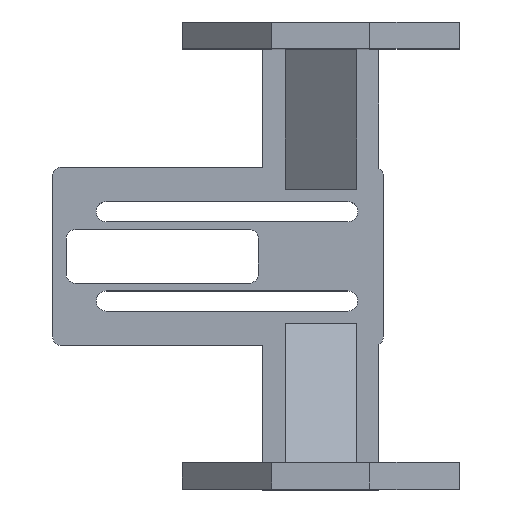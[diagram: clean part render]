
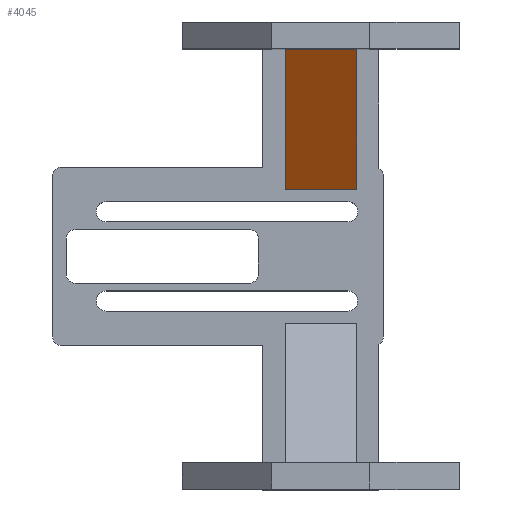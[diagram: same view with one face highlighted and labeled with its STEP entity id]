
A CAD part, top view. The second image highlights one B-rep face of the part: STEP entity #4045.
In plain terms, the highlighted planar face has unit normal (0, -0.543, 0.84).
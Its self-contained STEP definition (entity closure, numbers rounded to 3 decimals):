
#44 = PLANE('',#45);
#45 = AXIS2_PLACEMENT_3D('',#46,#47,#48);
#46 = CARTESIAN_POINT('',(-15.,-20.,6.));
#47 = DIRECTION('',(0.,0.,1.));
#48 = DIRECTION('',(1.,0.,0.));
#671 = PLANE('',#672);
#672 = AXIS2_PLACEMENT_3D('',#673,#674,#675);
#673 = CARTESIAN_POINT('',(45.,46.3,52.815));
#674 = DIRECTION('',(-0.,-1.,-0.));
#675 = DIRECTION('',(0.,0.,-1.));
#683 = VERTEX_POINT('',#684);
#684 = CARTESIAN_POINT('',(53.,15.,6.));
#698 = PLANE('',#699);
#699 = AXIS2_PLACEMENT_3D('',#700,#701,#702);
#700 = CARTESIAN_POINT('',(53.,35.876,13.124));
#701 = DIRECTION('',(1.,0.,0.));
#702 = DIRECTION('',(-0.,0.,1.));
#710 = EDGE_CURVE('',#711,#683,#713,.T.);
#711 = VERTEX_POINT('',#712);
#712 = CARTESIAN_POINT('',(37.,15.,6.));
#713 = SURFACE_CURVE('',#714,(#718,#725),.PCURVE_S1.);
#714 = LINE('',#715,#716);
#715 = CARTESIAN_POINT('',(37.,15.,6.));
#716 = VECTOR('',#717,1.);
#717 = DIRECTION('',(1.,0.,0.));
#718 = PCURVE('',#44,#719);
#719 = DEFINITIONAL_REPRESENTATION('',(#720),#724);
#720 = LINE('',#721,#722);
#721 = CARTESIAN_POINT('',(52.,35.));
#722 = VECTOR('',#723,1.);
#723 = DIRECTION('',(1.,0.));
#724 = ( GEOMETRIC_REPRESENTATION_CONTEXT(2) 
PARAMETRIC_REPRESENTATION_CONTEXT() REPRESENTATION_CONTEXT('2D SPACE',''
  ) );
#725 = PCURVE('',#726,#731);
#726 = PLANE('',#727);
#727 = AXIS2_PLACEMENT_3D('',#728,#729,#730);
#728 = CARTESIAN_POINT('',(37.,49.,28.));
#729 = DIRECTION('',(0.,0.543,-0.84));
#730 = DIRECTION('',(0.,-0.84,-0.543));
#731 = DEFINITIONAL_REPRESENTATION('',(#732),#736);
#732 = LINE('',#733,#734);
#733 = CARTESIAN_POINT('',(40.497,0.));
#734 = VECTOR('',#735,1.);
#735 = DIRECTION('',(0.,-1.));
#736 = ( GEOMETRIC_REPRESENTATION_CONTEXT(2) 
PARAMETRIC_REPRESENTATION_CONTEXT() REPRESENTATION_CONTEXT('2D SPACE',''
  ) );
#754 = PLANE('',#755);
#755 = AXIS2_PLACEMENT_3D('',#756,#757,#758);
#756 = CARTESIAN_POINT('',(37.,35.876,13.124));
#757 = DIRECTION('',(1.,0.,0.));
#758 = DIRECTION('',(-0.,0.,1.));
#3603 = VERTEX_POINT('',#3604);
#3604 = CARTESIAN_POINT('',(37.,46.3,26.253));
#3623 = EDGE_CURVE('',#3603,#3624,#3626,.T.);
#3624 = VERTEX_POINT('',#3625);
#3625 = CARTESIAN_POINT('',(53.,46.3,26.253));
#3626 = SURFACE_CURVE('',#3627,(#3631,#3637),.PCURVE_S1.);
#3627 = LINE('',#3628,#3629);
#3628 = CARTESIAN_POINT('',(41.,46.3,26.253));
#3629 = VECTOR('',#3630,1.);
#3630 = DIRECTION('',(1.,-0.,0.));
#3631 = PCURVE('',#671,#3632);
#3632 = DEFINITIONAL_REPRESENTATION('',(#3633),#3636);
#3633 = B_SPLINE_CURVE_WITH_KNOTS('',1,(#3634,#3635),.UNSPECIFIED.,.F.,
  .F.,(2,2),(-4.,12.),.PIECEWISE_BEZIER_KNOTS.);
#3634 = CARTESIAN_POINT('',(26.562,-8.));
#3635 = CARTESIAN_POINT('',(26.562,8.));
#3636 = ( GEOMETRIC_REPRESENTATION_CONTEXT(2) 
PARAMETRIC_REPRESENTATION_CONTEXT() REPRESENTATION_CONTEXT('2D SPACE',''
  ) );
#3637 = PCURVE('',#726,#3638);
#3638 = DEFINITIONAL_REPRESENTATION('',(#3639),#3642);
#3639 = B_SPLINE_CURVE_WITH_KNOTS('',1,(#3640,#3641),.UNSPECIFIED.,.F.,
  .F.,(2,2),(-4.,12.),.PIECEWISE_BEZIER_KNOTS.);
#3640 = CARTESIAN_POINT('',(3.216,0.));
#3641 = CARTESIAN_POINT('',(3.216,-16.));
#3642 = ( GEOMETRIC_REPRESENTATION_CONTEXT(2) 
PARAMETRIC_REPRESENTATION_CONTEXT() REPRESENTATION_CONTEXT('2D SPACE',''
  ) );
#3996 = EDGE_CURVE('',#3603,#711,#3997,.T.);
#3997 = SURFACE_CURVE('',#3998,(#4002,#4009),.PCURVE_S1.);
#3998 = LINE('',#3999,#4000);
#3999 = CARTESIAN_POINT('',(37.,49.,28.));
#4000 = VECTOR('',#4001,1.);
#4001 = DIRECTION('',(0.,-0.84,-0.543));
#4002 = PCURVE('',#754,#4003);
#4003 = DEFINITIONAL_REPRESENTATION('',(#4004),#4008);
#4004 = LINE('',#4005,#4006);
#4005 = CARTESIAN_POINT('',(14.876,-13.124));
#4006 = VECTOR('',#4007,1.);
#4007 = DIRECTION('',(-0.543,0.84));
#4008 = ( GEOMETRIC_REPRESENTATION_CONTEXT(2) 
PARAMETRIC_REPRESENTATION_CONTEXT() REPRESENTATION_CONTEXT('2D SPACE',''
  ) );
#4009 = PCURVE('',#726,#4010);
#4010 = DEFINITIONAL_REPRESENTATION('',(#4011),#4015);
#4011 = LINE('',#4012,#4013);
#4012 = CARTESIAN_POINT('',(0.,0.));
#4013 = VECTOR('',#4014,1.);
#4014 = DIRECTION('',(1.,0.));
#4015 = ( GEOMETRIC_REPRESENTATION_CONTEXT(2) 
PARAMETRIC_REPRESENTATION_CONTEXT() REPRESENTATION_CONTEXT('2D SPACE',''
  ) );
#4045 = ADVANCED_FACE('',(#4046),#726,.F.);
#4046 = FACE_BOUND('',#4047,.F.);
#4047 = EDGE_LOOP('',(#4048,#4049,#4050,#4071));
#4048 = ORIENTED_EDGE('',*,*,#3996,.F.);
#4049 = ORIENTED_EDGE('',*,*,#3623,.T.);
#4050 = ORIENTED_EDGE('',*,*,#4051,.T.);
#4051 = EDGE_CURVE('',#3624,#683,#4052,.T.);
#4052 = SURFACE_CURVE('',#4053,(#4057,#4064),.PCURVE_S1.);
#4053 = LINE('',#4054,#4055);
#4054 = CARTESIAN_POINT('',(53.,49.,28.));
#4055 = VECTOR('',#4056,1.);
#4056 = DIRECTION('',(0.,-0.84,-0.543));
#4057 = PCURVE('',#726,#4058);
#4058 = DEFINITIONAL_REPRESENTATION('',(#4059),#4063);
#4059 = LINE('',#4060,#4061);
#4060 = CARTESIAN_POINT('',(0.,-16.));
#4061 = VECTOR('',#4062,1.);
#4062 = DIRECTION('',(1.,0.));
#4063 = ( GEOMETRIC_REPRESENTATION_CONTEXT(2) 
PARAMETRIC_REPRESENTATION_CONTEXT() REPRESENTATION_CONTEXT('2D SPACE',''
  ) );
#4064 = PCURVE('',#698,#4065);
#4065 = DEFINITIONAL_REPRESENTATION('',(#4066),#4070);
#4066 = LINE('',#4067,#4068);
#4067 = CARTESIAN_POINT('',(14.876,-13.124));
#4068 = VECTOR('',#4069,1.);
#4069 = DIRECTION('',(-0.543,0.84));
#4070 = ( GEOMETRIC_REPRESENTATION_CONTEXT(2) 
PARAMETRIC_REPRESENTATION_CONTEXT() REPRESENTATION_CONTEXT('2D SPACE',''
  ) );
#4071 = ORIENTED_EDGE('',*,*,#710,.F.);
